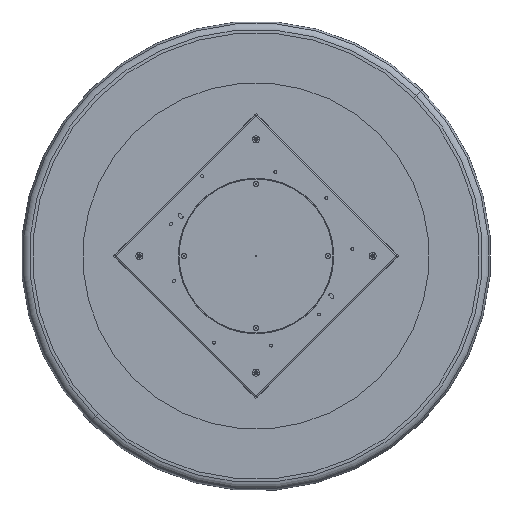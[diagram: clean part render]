
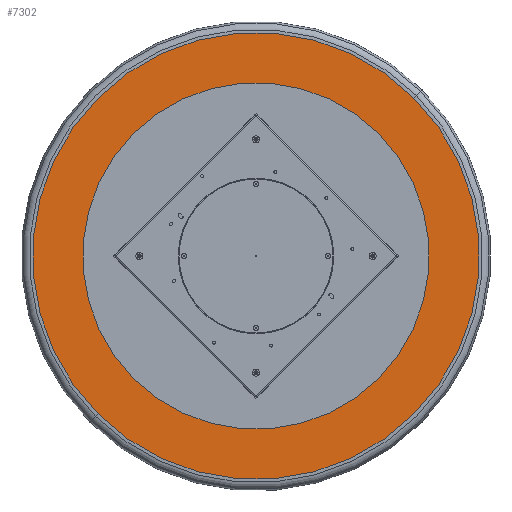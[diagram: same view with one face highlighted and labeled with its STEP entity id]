
A CAD part, front view. The second image highlights one B-rep face of the part: STEP entity #7302.
In plain terms, the highlighted planar face has unit normal (0, -1, 0).
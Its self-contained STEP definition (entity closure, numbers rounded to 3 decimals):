
#21 = DIRECTION ( 'NONE',  ( 0., 1., 0. ) ) ;
#31 = FACE_BOUND ( 'NONE', #17397, .T. ) ;
#124 = DIRECTION ( 'NONE',  ( 0., -1., 0. ) ) ;
#672 = VERTEX_POINT ( 'NONE', #9583 ) ;
#800 = ORIENTED_EDGE ( 'NONE', *, *, #17662, .F. ) ;
#818 = CIRCLE ( 'NONE', #5718, 590. ) ;
#1499 = DIRECTION ( 'NONE',  ( 0., 0., 1. ) ) ;
#1870 = EDGE_LOOP ( 'NONE', ( #12177, #800 ) ) ;
#2305 = CARTESIAN_POINT ( 'NONE',  ( 0., -56., 590. ) ) ;
#2910 = CARTESIAN_POINT ( 'NONE',  ( 0., -56., 761. ) ) ;
#3258 = DIRECTION ( 'NONE',  ( 0., 0., 1. ) ) ;
#4039 = DIRECTION ( 'NONE',  ( 0., -1., 0. ) ) ;
#4659 = VERTEX_POINT ( 'NONE', #7303 ) ;
#5013 = ORIENTED_EDGE ( 'NONE', *, *, #14920, .F. ) ;
#5518 = EDGE_CURVE ( 'NONE', #17018, #4659, #7607, .T. ) ;
#5550 = CARTESIAN_POINT ( 'NONE',  ( 0., -56., 0. ) ) ;
#5718 = AXIS2_PLACEMENT_3D ( 'NONE', #15616, #14185, #14270 ) ;
#7302 = ADVANCED_FACE ( 'NONE', ( #31, #11107 ), #16601, .T. ) ;
#7303 = CARTESIAN_POINT ( 'NONE',  ( 0., -56., -761. ) ) ;
#7607 = CIRCLE ( 'NONE', #13635, 761. ) ;
#7893 = CARTESIAN_POINT ( 'NONE',  ( 0., -56., 761. ) ) ;
#8093 = EDGE_CURVE ( 'NONE', #11073, #672, #818, .T. ) ;
#8607 = DIRECTION ( 'NONE',  ( 0., 1., 0. ) ) ;
#8988 = ORIENTED_EDGE ( 'NONE', *, *, #8093, .F. ) ;
#9517 = DIRECTION ( 'NONE',  ( 0., 0., -1. ) ) ;
#9583 = CARTESIAN_POINT ( 'NONE',  ( 0., -56., -590. ) ) ;
#11073 = VERTEX_POINT ( 'NONE', #2305 ) ;
#11107 = FACE_OUTER_BOUND ( 'NONE', #1870, .T. ) ;
#11971 = AXIS2_PLACEMENT_3D ( 'NONE', #2910, #124, #12543 ) ;
#12177 = ORIENTED_EDGE ( 'NONE', *, *, #5518, .F. ) ;
#12358 = CARTESIAN_POINT ( 'NONE',  ( 0., -56., 0. ) ) ;
#12543 = DIRECTION ( 'NONE',  ( 0., 0., -1. ) ) ;
#13635 = AXIS2_PLACEMENT_3D ( 'NONE', #5550, #8607, #1499 ) ;
#14000 = CIRCLE ( 'NONE', #14288, 761. ) ;
#14185 = DIRECTION ( 'NONE',  ( 0., -1., 0. ) ) ;
#14270 = DIRECTION ( 'NONE',  ( 0., 0., -1. ) ) ;
#14288 = AXIS2_PLACEMENT_3D ( 'NONE', #12358, #21, #3258 ) ;
#14766 = CIRCLE ( 'NONE', #15355, 590. ) ;
#14920 = EDGE_CURVE ( 'NONE', #672, #11073, #14766, .T. ) ;
#15180 = CARTESIAN_POINT ( 'NONE',  ( 0., -56., 0. ) ) ;
#15355 = AXIS2_PLACEMENT_3D ( 'NONE', #15180, #4039, #9517 ) ;
#15616 = CARTESIAN_POINT ( 'NONE',  ( 0., -56., 0. ) ) ;
#16601 = PLANE ( 'NONE',  #11971 ) ;
#17018 = VERTEX_POINT ( 'NONE', #7893 ) ;
#17397 = EDGE_LOOP ( 'NONE', ( #5013, #8988 ) ) ;
#17662 = EDGE_CURVE ( 'NONE', #4659, #17018, #14000, .T. ) ;
